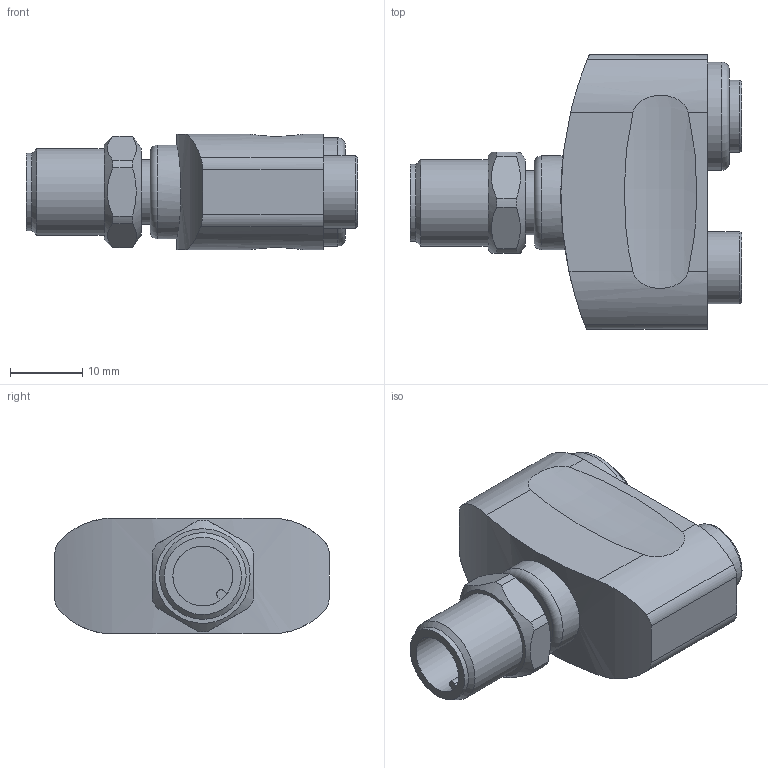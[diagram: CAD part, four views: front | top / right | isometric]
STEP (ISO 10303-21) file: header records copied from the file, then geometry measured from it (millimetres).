
FILE_DESCRIPTION( ( 'STEP AP203' ), '1' );
FILE_NAME( 'p:/temp/worker_238/temp/app_43_0201908201057502624048410e898ce_000000_00_00_000000/format_5/EBT012.stp', '2019-08-20T08:57:53', ( '' ), ( '' ), ' ', 'PARTsolutions', ' ' );
FILE_SCHEMA( ( 'CONFIG_CONTROL_DESIGN' ) );
Length unit declared in the file: millimetre
Products named in the file (1): _EBT012
Bounding box: 45.87 x 38 x 16 mm (x, y, z)
Volume: 13707.3 mm3; surface area: 4902.3 mm2
Topology: 1 solids, 1 shells, 67 faces, 152 edges, 99 vertices
Faces by surface type: cylinder 28, plane 28, cone 7, torus 4
Full cylindrical faces by diameter (mm): 5.7 x2, 6.917 x2, 8.3 x1, 8.9 x1, 10 x2, 10.7 x1, 12 x1, 13 x1, 15 x1
Entity records: 2203 total; most frequent: CARTESIAN_POINT 762, DIRECTION 290, ORIENTED_EDGE 254, EDGE_CURVE 127, AXIS2_PLACEMENT_3D 124, EDGE_LOOP 100, VERTEX_POINT 95, FACE_OUTER_BOUND 81
